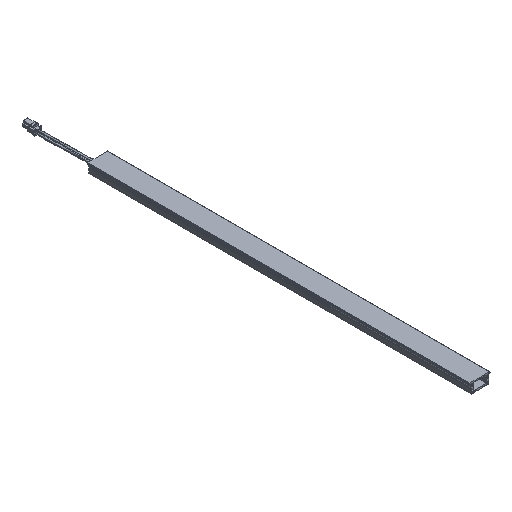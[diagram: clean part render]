
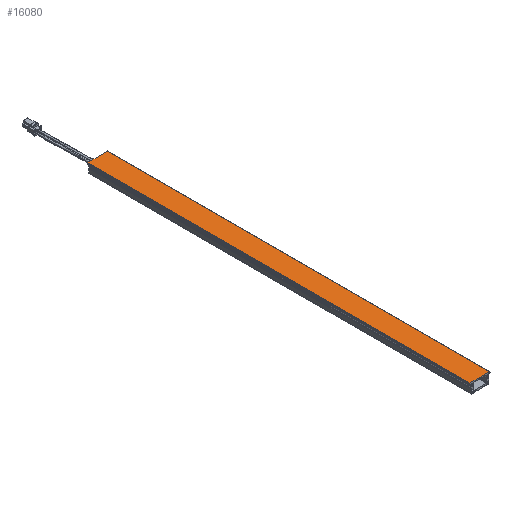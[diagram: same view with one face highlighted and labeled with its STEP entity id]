
A CAD part, isometric view. The second image highlights one B-rep face of the part: STEP entity #16080.
In plain terms, the highlighted planar face has unit normal (0, 0, 1).
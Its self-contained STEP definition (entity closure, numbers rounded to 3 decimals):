
#648 = DIRECTION ( 'NONE',  ( -1., 0., 0. ) ) ;
#657 = EDGE_CURVE ( 'NONE', #2378, #3899, #8864, .T. ) ;
#1391 = EDGE_LOOP ( 'NONE', ( #6074, #2813, #6531, #10991 ) ) ;
#1698 = FACE_OUTER_BOUND ( 'NONE', #1391, .T. ) ;
#2250 = EDGE_CURVE ( 'NONE', #3899, #11233, #5990, .T. ) ;
#2378 = VERTEX_POINT ( 'NONE', #10725 ) ;
#2799 = DIRECTION ( 'NONE',  ( 1., 0., 0. ) ) ;
#2813 = ORIENTED_EDGE ( 'NONE', *, *, #2879, .F. ) ;
#2879 = EDGE_CURVE ( 'NONE', #2378, #11098, #9281, .T. ) ;
#2889 = PLANE ( 'NONE',  #7566 ) ;
#3899 = VERTEX_POINT ( 'NONE', #11792 ) ;
#4626 = VECTOR ( 'NONE', #7714, 1000. ) ;
#5405 = VECTOR ( 'NONE', #7552, 1000. ) ;
#5990 = LINE ( 'NONE', #8757, #9815 ) ;
#6074 = ORIENTED_EDGE ( 'NONE', *, *, #11810, .T. ) ;
#6531 = ORIENTED_EDGE ( 'NONE', *, *, #657, .T. ) ;
#6552 = CARTESIAN_POINT ( 'NONE',  ( -151.344, -238.214, 10.862 ) ) ;
#7552 = DIRECTION ( 'NONE',  ( -1., 0., 0. ) ) ;
#7566 = AXIS2_PLACEMENT_3D ( 'NONE', #9242, #8119, #648 ) ;
#7694 = DIRECTION ( 'NONE',  ( 0., -1., 0. ) ) ;
#7714 = DIRECTION ( 'NONE',  ( 0., -1., 0. ) ) ;
#7802 = CARTESIAN_POINT ( 'NONE',  ( -151.344, 161.786, 10.862 ) ) ;
#8119 = DIRECTION ( 'NONE',  ( 0., 0., 1. ) ) ;
#8183 = CARTESIAN_POINT ( 'NONE',  ( -172.144, -238.214, 10.862 ) ) ;
#8631 = CARTESIAN_POINT ( 'NONE',  ( -151.344, -238.214, 10.862 ) ) ;
#8757 = CARTESIAN_POINT ( 'NONE',  ( -172.144, 161.786, 10.862 ) ) ;
#8864 = LINE ( 'NONE', #7802, #5405 ) ;
#8936 = CARTESIAN_POINT ( 'NONE',  ( -151.344, 161.786, 10.862 ) ) ;
#9242 = CARTESIAN_POINT ( 'NONE',  ( -161.744, 161.786, 10.862 ) ) ;
#9281 = LINE ( 'NONE', #8936, #4626 ) ;
#9815 = VECTOR ( 'NONE', #7694, 1000. ) ;
#10132 = LINE ( 'NONE', #6552, #14983 ) ;
#10725 = CARTESIAN_POINT ( 'NONE',  ( -151.344, 161.786, 10.862 ) ) ;
#10991 = ORIENTED_EDGE ( 'NONE', *, *, #2250, .T. ) ;
#11098 = VERTEX_POINT ( 'NONE', #8631 ) ;
#11233 = VERTEX_POINT ( 'NONE', #8183 ) ;
#11792 = CARTESIAN_POINT ( 'NONE',  ( -172.144, 161.786, 10.862 ) ) ;
#11810 = EDGE_CURVE ( 'NONE', #11233, #11098, #10132, .T. ) ;
#14983 = VECTOR ( 'NONE', #2799, 1000. ) ;
#16080 = ADVANCED_FACE ( 'NONE', ( #1698 ), #2889, .T. ) ;
